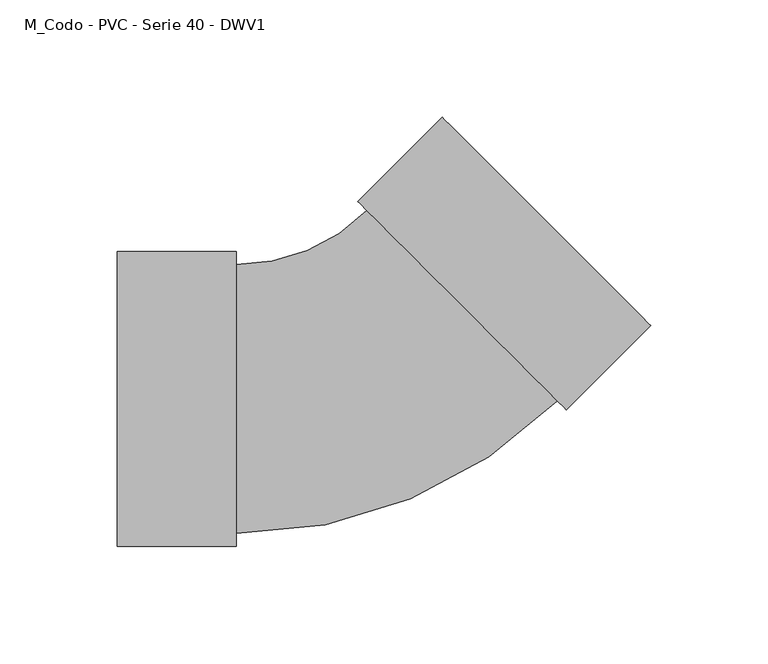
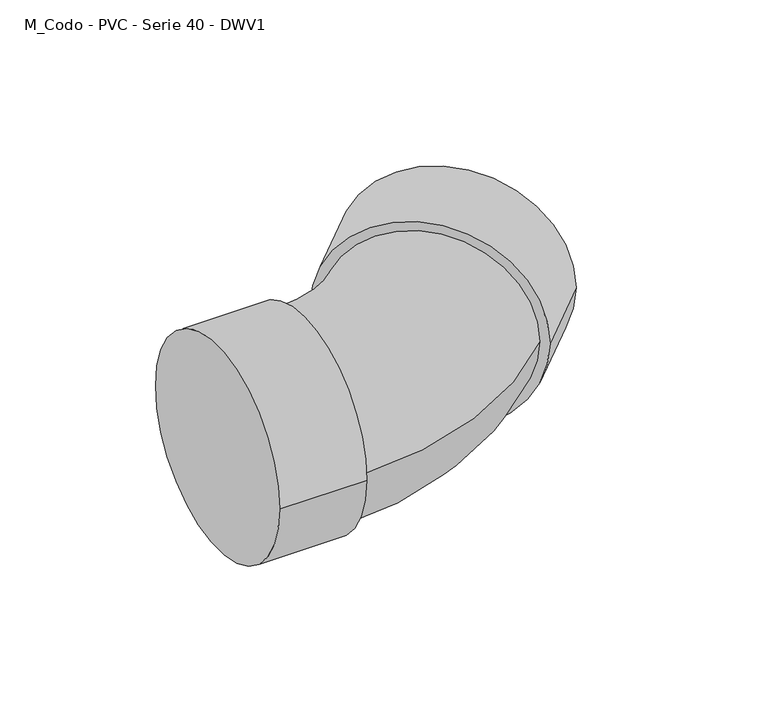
"""IFC4 building model written with IfcOpenShell, lengths in millimetres: pipe fitting geometry, M_Codo - PVC - Serie 40 - DWV1 : Estándar 2."""

from ifc_helpers import new_model, si_unit, point, frame, origin, place, context, project, spatial, circle_curve, ellipse_curve, trimmed, source, transform, mapped, element, save
from ifc_brep_helpers import plane_surface, cylinder_surface, revolved_surface, advanced_brep


def m_codo_pvc_serie_40_dwv1_9a7ca077(model_context):
    return source(origin(), model_context, "Body", "AdvancedBrep", [
        advanced_brep(
        [(-107.1641875, -62.8511094, 0.0), (-107.1641875, 62.8511094, 0.0), (-56.3641875, -62.8511094, 0.0), (-56.3641875, 62.8511094, 0.0), (-56.3641875, -57.3960625, 0.0), (-56.3641875, 57.3960625, 0.0), (-0.7296458, 80.4406442, 0.0), (80.4406442, -0.7296458, 0.0), (84.2979448, -4.5869464, 0.0), (-4.5869464, 84.2979448, 0.0), (120.2189693, 31.334078, 0.0), (31.334078, 120.2189693, 0.0)],
        [
            (0, 1, circle_curve(frame((-107.1641875, 0.0, 0.0), z_axis=(-1.0, 0.0, 0.0), x_axis=(0.0, 1.0, 0.0)), 62.8511094)),
            (1, 0, circle_curve(frame((-107.1641875, 0.0, 0.0), z_axis=(-1.0, 0.0, 0.0), x_axis=(0.0, 1.0, 0.0)), 62.8511094)),
            (2, 3, circle_curve(frame((-56.3641875, 0.0, 0.0), z_axis=(1.0, 0.0, 0.0), x_axis=(0.0, 1.0, 0.0)), 62.8511094)),
            (3, 2, circle_curve(frame((-56.3641875, 0.0, 0.0), z_axis=(1.0, 0.0, 0.0), x_axis=(0.0, 1.0, 0.0)), 62.8511094)),
            (4, 5, circle_curve(frame((-56.3641875, 0.0, 0.0), z_axis=(-1.0, 0.0, 0.0), x_axis=(0.0, 1.0, 0.0)), 57.3960625)),
            (5, 4, circle_curve(frame((-56.3641875, 0.0, 0.0), z_axis=(-1.0, 0.0, 0.0), x_axis=(0.0, 1.0, 0.0)), 57.3960625)),
            (0, 2),
            (3, 1),
            (6, 5, circle_curve(frame((-56.3641875, 136.0751859, 0.0), z_axis=(0.0, 0.0, -1.0), x_axis=(0.0, -1.0, 0.0)), 78.6791234)),
            (4, 7, circle_curve(frame((-56.3641875, 136.0751859, 0.0), z_axis=(0.0, 0.0, 1.0), x_axis=(0.0, -1.0, 0.0)), 193.4712484)),
            (7, 6, circle_curve(frame((39.8554992, 39.8554992, 0.0), z_axis=(-0.7071067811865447, -0.7071067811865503, 0.0), x_axis=(-0.7071067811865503, 0.7071067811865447, 0.0)), 57.3960625)),
            (6, 7, circle_curve(frame((39.8554992, 39.8554992, 0.0), z_axis=(-0.7071067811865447, -0.7071067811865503, 0.0), x_axis=(-0.7071067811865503, 0.7071067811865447, 0.0)), 57.3960625)),
            (8, 9, circle_curve(frame((39.8554992, 39.8554992, 0.0), z_axis=(-0.7071067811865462, -0.7071067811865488, 0.0), x_axis=(-0.7071067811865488, 0.7071067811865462, 0.0)), 62.8511094)),
            (9, 8, circle_curve(frame((39.8554992, 39.8554992, 0.0), z_axis=(-0.7071067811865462, -0.7071067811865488, 0.0), x_axis=(-0.7071067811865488, 0.7071067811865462, 0.0)), 62.8511094)),
            (10, 11, circle_curve(frame((75.7765237, 75.7765237, 0.0), z_axis=(0.7071067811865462, 0.7071067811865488, 0.0), x_axis=(-0.7071067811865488, 0.7071067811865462, 0.0)), 62.8511094)),
            (11, 10, circle_curve(frame((75.7765237, 75.7765237, 0.0), z_axis=(0.7071067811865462, 0.7071067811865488, 0.0), x_axis=(-0.7071067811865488, 0.7071067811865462, 0.0)), 62.8511094)),
            (8, 10),
            (11, 9),
        ],
        [
            plane_surface(frame((-107.1641875, 0.0, 0.0), z_axis=(-1.0, 0.0, 0.0), x_axis=(0.0, 0.0, 1.0))),
            plane_surface(frame((-56.3641875, 0.0, 0.0), z_axis=(1.0, 0.0, 0.0), x_axis=(0.0, 0.0, 1.0))),
            cylinder_surface(frame((-107.1641875, 0.0, 0.0), z_axis=(-1.0, 0.0, 0.0), x_axis=(0.0, 1.0, 0.0)), 62.8511094),
            revolved_surface(trimmed(ellipse_curve(frame((-56.3641875, 0.0, 0.0), z_axis=(-1.0, 0.0, 0.0), x_axis=(0.0, 1.0, 0.0)), 57.3960625, 57.3960625), [point((-56.3641875, -57.3960625, 0.0))], [point((-56.3641875, 57.3960625, 0.0))], True, "CARTESIAN"), (-56.3641875, 136.0751859, 0.0), (0.0, 0.0, 1.0)),
            revolved_surface(trimmed(ellipse_curve(frame((-56.3641875, 0.0, 0.0), z_axis=(-1.0, 0.0, 0.0), x_axis=(0.0, 1.0, 0.0)), 57.3960625, 57.3960625), [point((-56.3641875, 57.3960625, 0.0))], [point((-56.3641875, -57.3960625, 0.0))], True, "CARTESIAN"), (-56.3641875, 136.0751859, 0.0), (0.0, 0.0, 1.0)),
            plane_surface(frame((39.8554992, 39.8554992, 0.0), z_axis=(-0.7071067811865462, -0.7071067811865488, 0.0), x_axis=(0.0, 0.0, 1.0))),
            plane_surface(frame((75.7765237, 75.7765237, 0.0), z_axis=(0.7071067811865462, 0.7071067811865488, 0.0), x_axis=(0.0, 0.0, 1.0))),
            cylinder_surface(frame((39.8554992, 39.8554992, 0.0), z_axis=(-0.7071067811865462, -0.7071067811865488, 0.0), x_axis=(-0.7071067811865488, 0.7071067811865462, 0.0)), 62.8511094),
        ],
        [
            (0, [[1, 2]]),
            (1, [[3, 4], [5, 6]]),
            (2, [[-1, 7, -4, 8]]),
            (2, [[-2, -8, -3, -7]]),
            (3, [[9, -5, 10, 11]]),
            (4, [[-9, 12, -10, -6]]),
            (5, [[13, 14], [-11, -12]]),
            (6, [[15, 16]]),
            (7, [[-13, 17, -16, 18]]),
            (7, [[-14, -18, -15, -17]]),
        ],
    ),
    ])


if __name__ == "__main__":
    model = new_model("IFC4")
    model_context = context("Model", 3, world=origin())
    ifc_project = project(units=[si_unit("LENGTHUNIT", "METRE", prefix="MILLI")], contexts=[model_context])
    site = spatial("IfcSite", under=ifc_project)
    building = spatial("IfcBuilding", under=site)
    placement = place(None, origin())
    m_codo_pvc_serie_40_dwv1_shape = m_codo_pvc_serie_40_dwv1_9a7ca077(model_context)
    element("IfcPipeFitting", 1, ObjectType="M_Codo - PVC - Serie 40 - DWV1 : Estándar 2", at=placement, inside=building, context=model_context, shape_type="MappedRepresentation", body=[
        mapped(m_codo_pvc_serie_40_dwv1_shape, transform((0.0, 0.0, 0.0), x_axis=(1.0, 0.0, 0.0), y_axis=(0.0, 1.0, 0.0), z_axis=(0.0, 0.0, 1.0))),
    ])
    save(model, "model.ifc")
